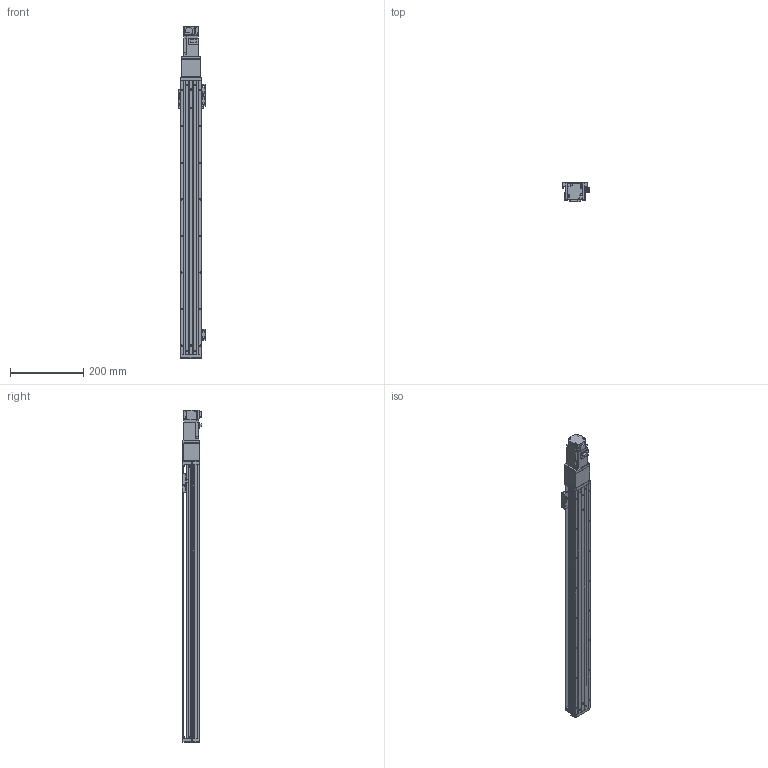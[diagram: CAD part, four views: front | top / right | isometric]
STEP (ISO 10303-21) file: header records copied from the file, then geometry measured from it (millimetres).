
FILE_DESCRIPTION (( 'STEP AP203' ), '1' );
FILE_NAME ('KTHA50-650-BC-M10-C4L.step', '2022-03-19T07:04:10', ( '微软用户' ), ( '微软中国' ), 'SwSTEP 2.0', 'SolidWorks 2020', '' );
FILE_SCHEMA (( 'CONFIG_CONTROL_DESIGN' ));
Length unit declared in the file: millimetre
Products named in the file (18): KTHA50-005; CTHA50-027; CTHA60-016; GB¨uT 70.2-M3¡Á6_M3¡Á6; CTHA50-006-2_CTHA60-006-2; CTHA60-021; EE_SX911P_R; CTHA50-013; GBT77-2000 M3×3; HG-KR13（三菱）; KTHA50-001_750; GBT 70.1-M3℅6; KTHA50-650-BC-M10-C4L; KTHA50-002; CTHA60-017; KTHA50-004; GBT 70.3-M3℅6; GBT 70.1-M4×12
Assembly tree (52 placements, depth 2):
  KTHA50-650-BC-M10-C4L
    KTHA50-001_750
    KTHA50-002
    KTHA50-004
    KTHA50-005
    GB¨uT 70.2-M3¡Á6_M3¡Á6  x6
    EE_SX911P_R  x3
    GBT77-2000 M3×3  x6
    GBT 70.1-M3℅6  x6
    CTHA60-017  x3
    GBT 70.1-M4×12  x10
    CTHA60-016  x2
    CTHA60-021  x2
    GBT 70.3-M3℅6  x6
    CTHA50-027
    CTHA50-006-2_CTHA60-006-2
    CTHA50-013
    HG-KR13（三菱）
Bounding box: 75.22 x 53.3 x 908.6 mm (x, y, z)
Volume: 1504681.1 mm3; surface area: 383312.5 mm2
Topology: 55 solids, 55 shells, 2206 faces, 5234 edges, 3208 vertices
Faces by surface type: plane 1256, cylinder 524, cone 322, torus 88, sphere 16
Entity records: 36186 total; most frequent: CARTESIAN_POINT 5914, DIRECTION 5840, ORIENTED_EDGE 5540, EDGE_CURVE 2770, AXIS2_PLACEMENT_3D 1947, LINE 1946, VECTOR 1946, VERTEX_POINT 1741
